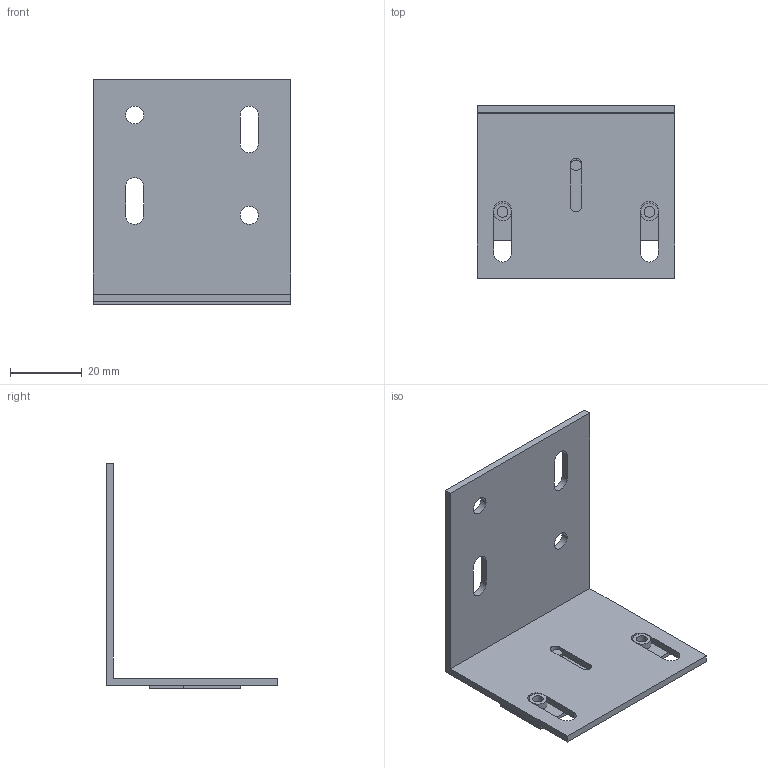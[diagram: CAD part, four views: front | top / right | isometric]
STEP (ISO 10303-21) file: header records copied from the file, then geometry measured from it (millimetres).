
FILE_DESCRIPTION(('STEP AP242'),'1');
FILE_NAME('OPO_65.082.74_volu_schn_3d.stp','2026-01-30T20:56:25',(' '),(' '),'Spatial InterOp 3D',' ',' ');
FILE_SCHEMA(('AP242_MANAGED_MODEL_BASED_3D_ENGINEERING_MIM_LF {1 0 10303 442 1 1 4}'));
Length unit declared in the file: millimetre
Products named in the file (1): 1
Bounding box: 55 x 48 x 63.01 mm (x, y, z)
Volume: 12181.1 mm3; surface area: 14427.5 mm2
Topology: 2 solids, 2 shells, 99 faces, 458 edges, 567 vertices
Faces by surface type: plane 55, cylinder 44
Entity records: 6350 total; most frequent: DIRECTION 787, CARTESIAN_POINT 730, ORIENTED_EDGE 512, LINE 333, VECTOR 333, STYLED_ITEM 301, PRESENTATION_STYLE_ASSIGNMENT 301, COLOUR_RGB 301
